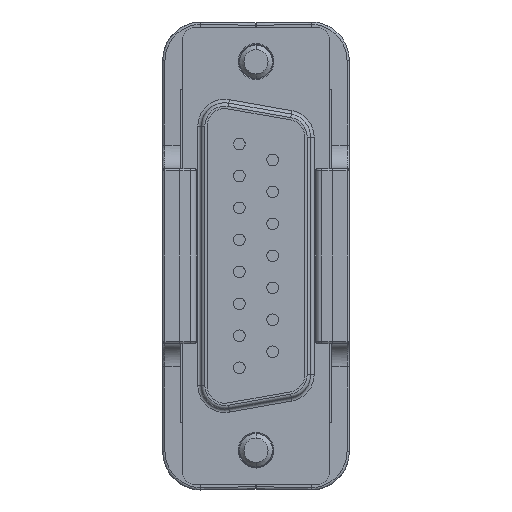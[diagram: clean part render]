
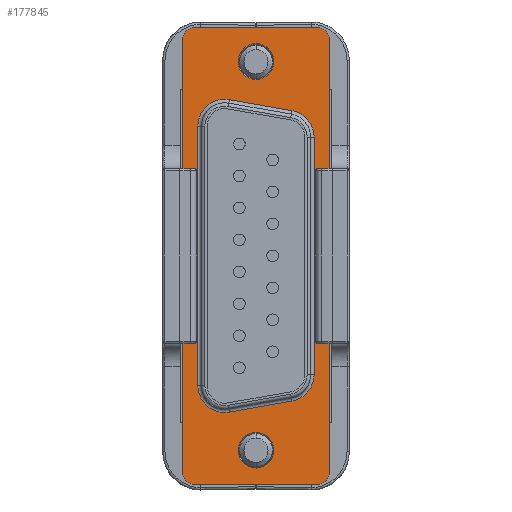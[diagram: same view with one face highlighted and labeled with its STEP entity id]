
A CAD part, left-side view. The second image highlights one B-rep face of the part: STEP entity #177845.
In plain terms, the highlighted planar face has unit normal (-1, 0, 0) as drawn and (0, 0, 1) by its records, which use the part's own axes.
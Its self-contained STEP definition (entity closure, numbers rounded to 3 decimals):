
#175172=DIRECTION('',(1.,0.,0.));
#175173=VECTOR('',#175172,37.14);
#175174=CARTESIAN_POINT('',(-18.57,6.275,0.));
#175175=LINE('',#175174,#175173);
#175176=DIRECTION('',(0.,-1.,0.));
#175177=VECTOR('',#175176,10.55);
#175178=CARTESIAN_POINT('',(19.57,5.275,0.));
#175179=LINE('',#175178,#175177);
#175180=DIRECTION('',(-1.,0.,0.));
#175181=VECTOR('',#175180,37.14);
#175182=CARTESIAN_POINT('',(18.57,-6.275,0.));
#175183=LINE('',#175182,#175181);
#175184=DIRECTION('',(0.,1.,0.));
#175185=VECTOR('',#175184,10.55);
#175186=CARTESIAN_POINT('',(-19.57,-5.275,0.));
#175187=LINE('',#175186,#175185);
#175188=CARTESIAN_POINT('',(16.66,0.,0.));
#175189=DIRECTION('',(0.,0.,1.));
#175190=DIRECTION('',(1.,0.,0.));
#175191=AXIS2_PLACEMENT_3D('',#175188,#175189,#175190);
#175193=CARTESIAN_POINT('',(16.66,0.,0.));
#175194=DIRECTION('',(0.,0.,1.));
#175195=DIRECTION('',(-1.,0.,0.));
#175196=AXIS2_PLACEMENT_3D('',#175193,#175194,#175195);
#175198=CARTESIAN_POINT('',(-16.66,0.,0.));
#175199=DIRECTION('',(0.,0.,1.));
#175200=DIRECTION('',(1.,0.,0.));
#175201=AXIS2_PLACEMENT_3D('',#175198,#175199,#175200);
#175203=CARTESIAN_POINT('',(-16.66,0.,0.));
#175204=DIRECTION('',(0.,0.,1.));
#175205=DIRECTION('',(-1.,0.,0.));
#175206=AXIS2_PLACEMENT_3D('',#175203,#175204,#175205);
#175407=CARTESIAN_POINT('',(-18.57,5.275,0.));
#175408=DIRECTION('',(0.,0.,1.));
#175409=DIRECTION('',(0.,1.,0.));
#175410=AXIS2_PLACEMENT_3D('',#175407,#175408,#175409);
#175425=CARTESIAN_POINT('',(-18.57,-5.275,0.));
#175426=DIRECTION('',(0.,0.,1.));
#175427=DIRECTION('',(-1.,0.,0.));
#175428=AXIS2_PLACEMENT_3D('',#175425,#175426,#175427);
#175443=CARTESIAN_POINT('',(18.57,-5.275,0.));
#175444=DIRECTION('',(0.,0.,1.));
#175445=DIRECTION('',(0.,-1.,0.));
#175446=AXIS2_PLACEMENT_3D('',#175443,#175444,#175445);
#175461=CARTESIAN_POINT('',(18.57,5.275,0.));
#175462=DIRECTION('',(0.,0.,1.));
#175463=DIRECTION('',(1.,0.,0.));
#175464=AXIS2_PLACEMENT_3D('',#175461,#175462,#175463);
#176810=DIRECTION('',(0.174,0.985,0.));
#176811=VECTOR('',#176810,5.443);
#176812=CARTESIAN_POINT('',(12.445,-3.079,0.));
#176813=LINE('',#176812,#176811);
#176823=CARTESIAN_POINT('',(10.18,-2.68,0.));
#176824=DIRECTION('',(0.,0.,1.));
#176825=DIRECTION('',(0.,-1.,0.));
#176826=AXIS2_PLACEMENT_3D('',#176823,#176824,#176825);
#176838=DIRECTION('',(1.,0.,0.));
#176839=VECTOR('',#176838,20.36);
#176840=CARTESIAN_POINT('',(-10.18,-4.98,0.));
#176841=LINE('',#176840,#176839);
#176851=CARTESIAN_POINT('',(-10.18,-2.68,0.));
#176852=DIRECTION('',(0.,0.,1.));
#176853=DIRECTION('',(-0.985,-0.174,0.));
#176854=AXIS2_PLACEMENT_3D('',#176851,#176852,#176853);
#176866=DIRECTION('',(0.174,-0.985,0.));
#176867=VECTOR('',#176866,5.443);
#176868=CARTESIAN_POINT('',(-13.39,2.281,0.));
#176869=LINE('',#176868,#176867);
#176879=CARTESIAN_POINT('',(-11.125,2.68,0.));
#176880=DIRECTION('',(0.,0.,1.));
#176881=DIRECTION('',(0.,1.,0.));
#176882=AXIS2_PLACEMENT_3D('',#176879,#176880,#176881);
#176894=DIRECTION('',(-1.,0.,0.));
#176895=VECTOR('',#176894,22.25);
#176896=CARTESIAN_POINT('',(11.125,4.98,0.));
#176897=LINE('',#176896,#176895);
#176907=CARTESIAN_POINT('',(11.125,2.68,0.));
#176908=DIRECTION('',(0.,0.,1.));
#176909=DIRECTION('',(0.985,-0.174,0.));
#176910=AXIS2_PLACEMENT_3D('',#176907,#176908,#176909);
#177193=CARTESIAN_POINT('',(-19.57,5.275,0.));
#177195=VERTEX_POINT('',#177193);
#177198=CARTESIAN_POINT('',(-18.57,6.275,0.));
#177199=VERTEX_POINT('',#177198);
#177201=CARTESIAN_POINT('',(-18.57,-6.275,0.));
#177203=VERTEX_POINT('',#177201);
#177206=CARTESIAN_POINT('',(-19.57,-5.275,0.));
#177207=VERTEX_POINT('',#177206);
#177209=CARTESIAN_POINT('',(18.57,6.275,0.));
#177211=VERTEX_POINT('',#177209);
#177214=CARTESIAN_POINT('',(19.57,5.275,0.));
#177215=VERTEX_POINT('',#177214);
#177217=CARTESIAN_POINT('',(19.57,-5.275,0.));
#177219=VERTEX_POINT('',#177217);
#177222=CARTESIAN_POINT('',(18.57,-6.275,0.));
#177223=VERTEX_POINT('',#177222);
#177224=CARTESIAN_POINT('',(18.185,0.,0.));
#177225=CARTESIAN_POINT('',(15.135,0.,0.));
#177226=VERTEX_POINT('',#177224);
#177227=VERTEX_POINT('',#177225);
#177228=CARTESIAN_POINT('',(-15.135,0.,0.));
#177229=CARTESIAN_POINT('',(-18.185,0.,0.));
#177230=VERTEX_POINT('',#177228);
#177231=VERTEX_POINT('',#177229);
#177272=CARTESIAN_POINT('',(11.125,4.98,0.));
#177273=CARTESIAN_POINT('',(-11.125,4.98,0.));
#177274=VERTEX_POINT('',#177272);
#177275=VERTEX_POINT('',#177273);
#177280=CARTESIAN_POINT('',(-13.39,2.281,
0.));
#177281=VERTEX_POINT('',#177280);
#177284=CARTESIAN_POINT('',(-12.445,-3.079,0.));
#177285=VERTEX_POINT('',#177284);
#177288=CARTESIAN_POINT('',(-10.18,-4.98,
0.));
#177289=VERTEX_POINT('',#177288);
#177292=CARTESIAN_POINT('',(10.18,-4.98,0.));
#177293=VERTEX_POINT('',#177292);
#177296=CARTESIAN_POINT('',(12.445,-3.079,
0.));
#177297=VERTEX_POINT('',#177296);
#177300=CARTESIAN_POINT('',(13.39,2.281,0.));
#177301=VERTEX_POINT('',#177300);
#177792=CARTESIAN_POINT('',(0.,0.,0.));
#177793=DIRECTION('',(0.,0.,-1.));
#177794=DIRECTION('',(-1.,0.,0.));
#177795=AXIS2_PLACEMENT_3D('',#177792,#177793,#177794);
#177796=PLANE('',#177795);
#177798=ORIENTED_EDGE('',*,*,#177797,.F.);
#177800=ORIENTED_EDGE('',*,*,#177799,.T.);
#177802=ORIENTED_EDGE('',*,*,#177801,.F.);
#177804=ORIENTED_EDGE('',*,*,#177803,.T.);
#177806=ORIENTED_EDGE('',*,*,#177805,.F.);
#177808=ORIENTED_EDGE('',*,*,#177807,.T.);
#177810=ORIENTED_EDGE('',*,*,#177809,.F.);
#177812=ORIENTED_EDGE('',*,*,#177811,.T.);
#177813=EDGE_LOOP('',(#177798,#177800,#177802,#177804,#177806,#177808,#177810,
#177812));
#177814=FACE_OUTER_BOUND('',#177813,.F.);
#177816=ORIENTED_EDGE('',*,*,#177815,.T.);
#177818=ORIENTED_EDGE('',*,*,#177817,.T.);
#177819=EDGE_LOOP('',(#177816,#177818));
#177820=FACE_BOUND('',#177819,.F.);
#177822=ORIENTED_EDGE('',*,*,#177821,.T.);
#177824=ORIENTED_EDGE('',*,*,#177823,.T.);
#177825=EDGE_LOOP('',(#177822,#177824));
#177826=FACE_BOUND('',#177825,.F.);
#177828=ORIENTED_EDGE('',*,*,#177827,.T.);
#177830=ORIENTED_EDGE('',*,*,#177829,.T.);
#177832=ORIENTED_EDGE('',*,*,#177831,.T.);
#177834=ORIENTED_EDGE('',*,*,#177833,.T.);
#177836=ORIENTED_EDGE('',*,*,#177835,.T.);
#177838=ORIENTED_EDGE('',*,*,#177837,.T.);
#177840=ORIENTED_EDGE('',*,*,#177839,.T.);
#177842=ORIENTED_EDGE('',*,*,#177841,.T.);
#177843=EDGE_LOOP('',(#177828,#177830,#177832,#177834,#177836,#177838,#177840,
#177842));
#177844=FACE_BOUND('',#177843,.F.);
#177845=ADVANCED_FACE('',(#177814,#177820,#177826,#177844),#177796,.F.);
#175192=CIRCLE('',#175191,1.525);
#175197=CIRCLE('',#175196,1.525);
#175202=CIRCLE('',#175201,1.525);
#175207=CIRCLE('',#175206,1.525);
#175411=CIRCLE('',#175410,1.);
#175429=CIRCLE('',#175428,1.);
#175447=CIRCLE('',#175446,1.);
#175465=CIRCLE('',#175464,1.);
#176827=CIRCLE('',#176826,2.3);
#176855=CIRCLE('',#176854,2.3);
#176883=CIRCLE('',#176882,2.3);
#176911=CIRCLE('',#176910,2.3);
#177797=EDGE_CURVE('',#177199,#177195,#175411,.T.);
#177799=EDGE_CURVE('',#177199,#177211,#175175,.T.);
#177801=EDGE_CURVE('',#177215,#177211,#175465,.T.);
#177803=EDGE_CURVE('',#177215,#177219,#175179,.T.);
#177805=EDGE_CURVE('',#177223,#177219,#175447,.T.);
#177807=EDGE_CURVE('',#177223,#177203,#175183,.T.);
#177809=EDGE_CURVE('',#177207,#177203,#175429,.T.);
#177811=EDGE_CURVE('',#177207,#177195,#175187,.T.);
#177815=EDGE_CURVE('',#177226,#177227,#175192,.T.);
#177817=EDGE_CURVE('',#177227,#177226,#175197,.T.);
#177821=EDGE_CURVE('',#177230,#177231,#175202,.T.);
#177823=EDGE_CURVE('',#177231,#177230,#175207,.T.);
#177827=EDGE_CURVE('',#177274,#177275,#176897,.T.);
#177829=EDGE_CURVE('',#177275,#177281,#176883,.T.);
#177831=EDGE_CURVE('',#177281,#177285,#176869,.T.);
#177833=EDGE_CURVE('',#177285,#177289,#176855,.T.);
#177835=EDGE_CURVE('',#177289,#177293,#176841,.T.);
#177837=EDGE_CURVE('',#177293,#177297,#176827,.T.);
#177839=EDGE_CURVE('',#177297,#177301,#176813,.T.);
#177841=EDGE_CURVE('',#177301,#177274,#176911,.T.);
